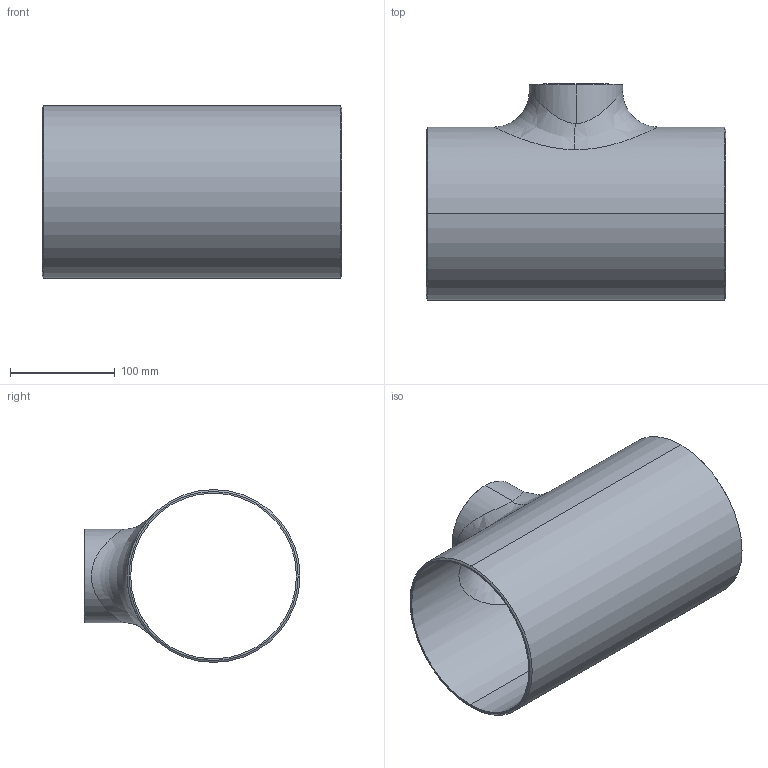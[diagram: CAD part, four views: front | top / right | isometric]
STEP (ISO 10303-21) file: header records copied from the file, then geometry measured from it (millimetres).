
FILE_DESCRIPTION (( 'STEP AP214' ), '1' );
FILE_NAME ('Different-tee_Sch10S-150Ax80A.STEP', '2022-06-28T01:25:42', ( 'ASIS User' ), ( 'ASIS User' ), 'SwSTEP 2.0', 'SolidWorks 2022', '' );
FILE_SCHEMA (( 'AUTOMOTIVE_DESIGN' ));
Length unit declared in the file: millimetre
Products named in the file (1): Different-tee_Sch10S-150Ax80A
Bounding box: 285.8 x 206.4 x 165.2 mm (x, y, z)
Volume: 506515.1 mm3; surface area: 305103.2 mm2
Topology: 1 solids, 1 shells, 21 faces, 48 edges, 30 vertices
Faces by surface type: cylinder 8, cone 6, bspline 4, plane 3
Entity records: 2354 total; most frequent: CARTESIAN_POINT 1856, ORIENTED_EDGE 96, DIRECTION 94, EDGE_CURVE 48, AXIS2_PLACEMENT_3D 40, VERTEX_POINT 30, EDGE_LOOP 26, CIRCLE 22
